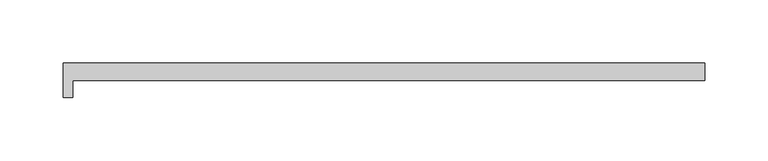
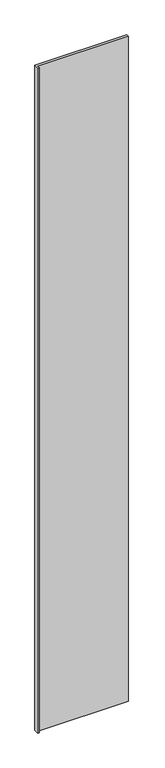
"""IFC4 building model written with IfcOpenShell, lengths in millimetres: plate geometry, Walls_Curtain-Walls_Danpal_AIRPT : Walls_Curtain-Walls_Danpal_AIRPT."""

from ifc_helpers import new_model, si_unit, origin, origin_with_axes, place, context, project, spatial, polyline, outline, extrude, source, transform, mapped, element, save


def plate_f3157e7b(model_context):
    return source(origin(), model_context, "Body", "SweptSolid", [
        extrude(outline(polyline([(-246.8723459, -14.1228126), (-246.8723459, -27.3924397), (-254.5917029, -27.3924397), (-254.5917029, 0.0), (254.5917029, 0.0), (254.5917029, -14.1228126), (-246.8723459, -14.1228126)])), origin_with_axes(), (0.0, 0.0, 1.0), 3887.6638156),
    ])


if __name__ == "__main__":
    model = new_model("IFC4")
    model_context = context("Model", 3, world=origin())
    ifc_project = project(units=[si_unit("LENGTHUNIT", "METRE", prefix="MILLI")], contexts=[model_context])
    site = spatial("IfcSite", under=ifc_project)
    building = spatial("IfcBuilding", under=site)
    placement = place(None, origin())
    plate_shape = plate_f3157e7b(model_context)
    element("IfcPlate", 1, ObjectType="Walls_Curtain-Walls_Danpal_AIRPT : Walls_Curtain-Walls_Danpal_AIRPT", at=placement, inside=building, context=model_context, shape_type="MappedRepresentation", body=[
        mapped(plate_shape, transform((0.0, 0.0, 0.0), x_axis=(1.0, 0.0, 0.0), y_axis=(0.0, 1.0, 0.0), z_axis=(0.0, 0.0, 1.0))),
    ])
    save(model, "model.ifc")
